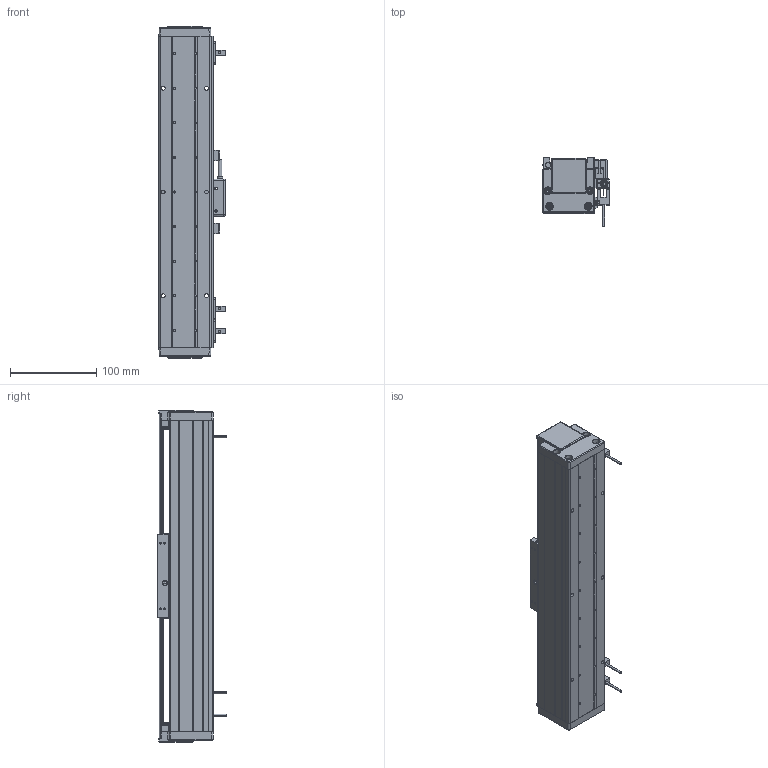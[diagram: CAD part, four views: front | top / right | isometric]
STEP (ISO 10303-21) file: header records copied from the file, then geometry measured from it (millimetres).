
FILE_DESCRIPTION (( 'STEP AP203' ), '1' );
FILE_NAME ('DA-A60-B1-T220-C010-0.2 眻盄萇儂.STEP', '2025-08-13T01:52:37', ( '' ), ( '' ), 'SwSTEP 2.0', 'SolidWorks 2019', '' );
FILE_SCHEMA (( 'CONFIG_CONTROL_DESIGN' ));
Length unit declared in the file: millimetre
Products named in the file (21): 复件 DA-A60-GYP-DMT-00 光电感应片^DA-A60-B1-T-C010-0.2-N 直线电机(默认); AU60-L 菁釱絳寢; IU-AU60-L-00 菁釱(360); 复件 六角薄螺母 M3^DA-A60-B1-T-C010-0.2-N 直线电机(GB_FASTENER_NUT_STNAB M3-C); 复件 DA60-DG-H-N-00 端盖^DA-A60-B1-T-C010-0.2-N 直线电机; AU60-V 幗紩賑怢; 葩璃 AKM01-W030-TRL^DA-A60-B1-T-C010-0.2-N 眻盄萇儂; 复件 DA60-GT-T-00 底座钢轨^AU60-L 底座导轨; 复件 XD-U-02  磁栅尺^DA-A60-B1-T-C010-0.2-N 直线电机; 复件 DA60-XJ-00 橡胶挡块^DA-A60-B1-T-C010-0.2-N 直线电机; 复件 DA60-B1-GT-00 滑块钢轨^DA60-YT-B1-HT-B-01 一体化滑动台板; DA-A60-B1-T220-C010-0.2 眻盄萇儂; DA60-YT-B1-HT-B-01 珨极趙賑雄怢啣; DA60-B1-HT-B-03 賑雄怢啣; DA60-T-002-00  裔啣; 复件 DA60-DMT-DTJ-00 读数头支架^DA-A60-B1-T-C010-0.2-N 直线电机; 葩璃 DMT-010 1米m 0.2M^DA-A60-B1-T-C010-0.2-N 眻盄萇儂; 葩璃 PM-T45^DA-A60-B1-T-C010-0.2-N 眻盄萇儂; 复件 BAKM01-W030-C1-TP-0.2 直线电机动子^DA-A60-B1-T-C010-0.2-N 直线电机; 葩璃 DA60-HK-DP-01 結え^AU60-V 幗紩賑怢; 复件 纯铜油杯 6x6mm^AU60-V 滚珠滑台
Assembly tree (33 placements, depth 4):
  DA-A60-B1-T220-C010-0.2 眻盄萇儂
    AU60-L 菁釱絳寢
      IU-AU60-L-00 菁釱(360)
      复件 DA60-GT-T-00 底座钢轨^AU60-L 底座导轨  x2
    AU60-V 幗紩賑怢
      DA60-YT-B1-HT-B-01 珨极趙賑雄怢啣
        DA60-B1-HT-B-03 賑雄怢啣
        复件 DA60-B1-GT-00 滑块钢轨^DA60-YT-B1-HT-B-01 一体化滑动台板  x2
      葩璃 DA60-HK-DP-01 結え^AU60-V 幗紩賑怢  x2
      复件 纯铜油杯 6x6mm^AU60-V 滚珠滑台
    复件 DA-A60-GYP-DMT-00 光电感应片^DA-A60-B1-T-C010-0.2-N 直线电机(默认)  x2
    复件 DA60-DMT-DTJ-00 读数头支架^DA-A60-B1-T-C010-0.2-N 直线电机
    葩璃 DMT-010 1米m 0.2M^DA-A60-B1-T-C010-0.2-N 眻盄萇儂
    复件 BAKM01-W030-C1-TP-0.2 直线电机动子^DA-A60-B1-T-C010-0.2-N 直线电机
    复件 DA60-XJ-00 橡胶挡块^DA-A60-B1-T-C010-0.2-N 直线电机  x2
    复件 DA60-DG-H-N-00 端盖^DA-A60-B1-T-C010-0.2-N 直线电机  x2
    DA60-T-002-00  裔啣
    葩璃 AKM01-W030-TRL^DA-A60-B1-T-C010-0.2-N 眻盄萇儂
    葩璃 PM-T45^DA-A60-B1-T-C010-0.2-N 眻盄萇儂  x3
    复件 XD-U-02  磁栅尺^DA-A60-B1-T-C010-0.2-N 直线电机
    复件 六角薄螺母 M3^DA-A60-B1-T-C010-0.2-N 直线电机(GB_FASTENER_NUT_STNAB M3-C)  x6
Bounding box: 76.95 x 80 x 384 mm (x, y, z)
Volume: 876323.8 mm3; surface area: 326646 mm2
Topology: 35 solids, 37 shells, 2642 faces, 6596 edges, 3951 vertices
Faces by surface type: cylinder 947, plane 861, bspline 577, cone 248, torus 8, sphere 1
Entity records: 62007 total; most frequent: CARTESIAN_POINT 20339, ORIENTED_EDGE 8448, DIRECTION 7799, EDGE_CURVE 4224, AXIS2_PLACEMENT_3D 2817, VERTEX_POINT 2622, VECTOR 2165, LINE 2165
